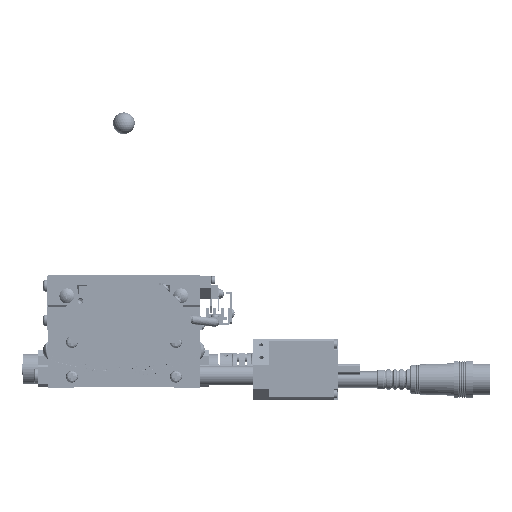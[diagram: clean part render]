
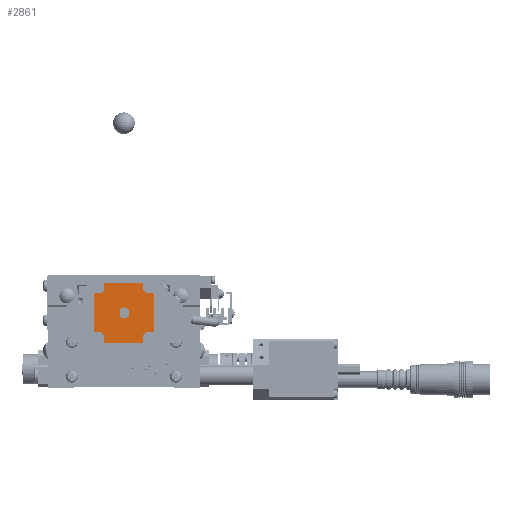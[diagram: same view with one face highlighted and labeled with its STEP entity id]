
A CAD part, front view. The second image highlights one B-rep face of the part: STEP entity #2861.
In plain terms, the highlighted planar face has unit normal (0, -1, 0).
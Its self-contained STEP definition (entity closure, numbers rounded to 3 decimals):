
#2861=ADVANCED_FACE('',(#31239,#31240),#31238,.F.);
#31238=PLANE('',#81348);
#31239=FACE_OUTER_BOUND('',#81349,.T.);
#31240=FACE_BOUND('',#81350,.T.);
#81345=CARTESIAN_POINT('',(16.8,-99.,51.3));
#81346=DIRECTION('',(0.,1.,0.));
#81347=DIRECTION('',(0.,0.,-1.));
#81348=AXIS2_PLACEMENT_3D('',#81345,#81346,#81347);
#81349=EDGE_LOOP('',(#115965,#115966,#115967,#115968,#115969,#115970,#115971,#115972,#115973,#115974,#115975,#115976,#115977,#115978,#115979,#115980));
#81350=EDGE_LOOP('',(#115981,#115982));
#115965=ORIENTED_EDGE('',*,*,#140571,.T.);
#115966=ORIENTED_EDGE('',*,*,#140578,.T.);
#115967=ORIENTED_EDGE('',*,*,#140575,.T.);
#115968=ORIENTED_EDGE('',*,*,#140584,.F.);
#115969=ORIENTED_EDGE('',*,*,#140585,.T.);
#115970=ORIENTED_EDGE('',*,*,#140586,.T.);
#115971=ORIENTED_EDGE('',*,*,#140587,.T.);
#115972=ORIENTED_EDGE('',*,*,#140588,.F.);
#115973=ORIENTED_EDGE('',*,*,#140589,.T.);
#115974=ORIENTED_EDGE('',*,*,#140590,.T.);
#115975=ORIENTED_EDGE('',*,*,#140591,.T.);
#115976=ORIENTED_EDGE('',*,*,#140592,.F.);
#115977=ORIENTED_EDGE('',*,*,#140593,.T.);
#115978=ORIENTED_EDGE('',*,*,#140594,.T.);
#115979=ORIENTED_EDGE('',*,*,#140595,.T.);
#115980=ORIENTED_EDGE('',*,*,#140596,.F.);
#115981=ORIENTED_EDGE('',*,*,#140597,.F.);
#115982=ORIENTED_EDGE('',*,*,#140485,.T.);
#140485=EDGE_CURVE('',#193451,#193452,#193453,.T.);
#140571=EDGE_CURVE('',#194030,#194023,#194031,.T.);
#140575=EDGE_CURVE('',#194058,#194051,#194059,.T.);
#140578=EDGE_CURVE('',#194023,#194058,#194077,.T.);
#140584=EDGE_CURVE('',#194117,#194051,#194118,.T.);
#140585=EDGE_CURVE('',#194117,#194124,#194125,.T.);
#140586=EDGE_CURVE('',#194124,#194131,#194132,.T.);
#140587=EDGE_CURVE('',#194131,#194138,#194139,.T.);
#140588=EDGE_CURVE('',#194145,#194138,#194146,.T.);
#140589=EDGE_CURVE('',#194145,#194152,#194153,.T.);
#140590=EDGE_CURVE('',#194152,#194159,#194160,.T.);
#140591=EDGE_CURVE('',#194159,#194166,#194167,.T.);
#140592=EDGE_CURVE('',#194173,#194166,#194174,.T.);
#140593=EDGE_CURVE('',#194173,#194180,#194181,.T.);
#140594=EDGE_CURVE('',#194180,#194187,#194188,.T.);
#140595=EDGE_CURVE('',#194187,#194194,#194195,.T.);
#140596=EDGE_CURVE('',#194030,#194194,#194201,.T.);
#140597=EDGE_CURVE('',#193451,#193452,#194207,.T.);
#193451=VERTEX_POINT('',#276558);
#193452=VERTEX_POINT('',#276559);
#193453=CIRCLE('',#276563,2.5);
#194023=VERTEX_POINT('',#276885);
#194030=VERTEX_POINT('',#276889);
#194031=LINE('',#276890,#276891);
#194051=VERTEX_POINT('',#276901);
#194058=VERTEX_POINT('',#276905);
#194059=LINE('',#276906,#276907);
#194077=CIRCLE('',#276919,19.);
#194117=VERTEX_POINT('',#276942);
#194118=LINE('',#276943,#276944);
#194124=VERTEX_POINT('',#276946);
#194125=LINE('',#276947,#276948);
#194131=VERTEX_POINT('',#276950);
#194132=CIRCLE('',#276954,19.);
#194138=VERTEX_POINT('',#276955);
#194139=LINE('',#276956,#276957);
#194145=VERTEX_POINT('',#276959);
#194146=LINE('',#276960,#276961);
#194152=VERTEX_POINT('',#276963);
#194153=LINE('',#276964,#276965);
#194159=VERTEX_POINT('',#276967);
#194160=CIRCLE('',#276971,19.);
#194166=VERTEX_POINT('',#276972);
#194167=LINE('',#276973,#276974);
#194173=VERTEX_POINT('',#276976);
#194174=LINE('',#276977,#276978);
#194180=VERTEX_POINT('',#276980);
#194181=LINE('',#276981,#276982);
#194187=VERTEX_POINT('',#276984);
#194188=CIRCLE('',#276988,19.);
#194194=VERTEX_POINT('',#276989);
#194195=LINE('',#276990,#276991);
#194201=LINE('',#276993,#276994);
#194207=LINE('',#276996,#276997);
#276558=CARTESIAN_POINT('',(-2.,-99.,36.));
#276559=CARTESIAN_POINT('',(-2.,-99.,33.));
#276560=CARTESIAN_POINT('',(0.,-99.,34.5));
#276561=DIRECTION('',(0.,1.,0.));
#276562=DIRECTION('',(-1.,0.,0.));
#276563=AXIS2_PLACEMENT_3D('',#276560,#276561,#276562);
#276885=CARTESIAN_POINT('',(-10.5,-99.,25.5));
#276889=CARTESIAN_POINT('',(-14.,-99.,25.5));
#276890=CARTESIAN_POINT('',(-14.,-99.,25.5));
#276891=VECTOR('',#276892,3.5);
#276892=DIRECTION('',(1.,0.,0.));
#276901=CARTESIAN_POINT('',(-9.,-99.,20.5));
#276905=CARTESIAN_POINT('',(-9.,-99.,24.));
#276906=CARTESIAN_POINT('',(-9.,-99.,24.));
#276907=VECTOR('',#276908,3.5);
#276908=DIRECTION('',(0.,0.,-1.));
#276916=CARTESIAN_POINT('',(-23.164,-99.,11.336));
#276917=DIRECTION('',(0.,1.,0.));
#276918=DIRECTION('',(-0.667,0.,-0.745));
#276919=AXIS2_PLACEMENT_3D('',#276916,#276917,#276918);
#276942=CARTESIAN_POINT('',(9.,-99.,20.5));
#276943=CARTESIAN_POINT('',(9.,-99.,20.5));
#276944=VECTOR('',#276945,18.);
#276945=DIRECTION('',(-1.,0.,0.));
#276946=CARTESIAN_POINT('',(9.,-99.,24.));
#276947=CARTESIAN_POINT('',(9.,-99.,20.5));
#276948=VECTOR('',#276949,3.5);
#276949=DIRECTION('',(0.,0.,1.));
#276950=CARTESIAN_POINT('',(10.5,-99.,25.5));
#276951=CARTESIAN_POINT('',(23.164,-99.,11.336));
#276952=DIRECTION('',(0.,1.,0.));
#276953=DIRECTION('',(0.745,0.,-0.667));
#276954=AXIS2_PLACEMENT_3D('',#276951,#276952,#276953);
#276955=CARTESIAN_POINT('',(14.,-99.,25.5));
#276956=CARTESIAN_POINT('',(10.5,-99.,25.5));
#276957=VECTOR('',#276958,3.5);
#276958=DIRECTION('',(1.,0.,0.));
#276959=CARTESIAN_POINT('',(14.,-99.,43.5));
#276960=CARTESIAN_POINT('',(14.,-99.,43.5));
#276961=VECTOR('',#276962,18.);
#276962=DIRECTION('',(0.,0.,-1.));
#276963=CARTESIAN_POINT('',(10.5,-99.,43.5));
#276964=CARTESIAN_POINT('',(14.,-99.,43.5));
#276965=VECTOR('',#276966,3.5);
#276966=DIRECTION('',(-1.,0.,0.));
#276967=CARTESIAN_POINT('',(9.,-99.,45.));
#276968=CARTESIAN_POINT('',(23.164,-99.,57.664));
#276969=DIRECTION('',(0.,1.,0.));
#276970=DIRECTION('',(0.667,0.,0.745));
#276971=AXIS2_PLACEMENT_3D('',#276968,#276969,#276970);
#276972=CARTESIAN_POINT('',(9.,-99.,48.5));
#276973=CARTESIAN_POINT('',(9.,-99.,45.));
#276974=VECTOR('',#276975,3.5);
#276975=DIRECTION('',(0.,0.,1.));
#276976=CARTESIAN_POINT('',(-9.,-99.,48.5));
#276977=CARTESIAN_POINT('',(-9.,-99.,48.5));
#276978=VECTOR('',#276979,18.);
#276979=DIRECTION('',(1.,0.,0.));
#276980=CARTESIAN_POINT('',(-9.,-99.,45.));
#276981=CARTESIAN_POINT('',(-9.,-99.,48.5));
#276982=VECTOR('',#276983,3.5);
#276983=DIRECTION('',(0.,0.,-1.));
#276984=CARTESIAN_POINT('',(-10.5,-99.,43.5));
#276985=CARTESIAN_POINT('',(-23.164,-99.,57.664));
#276986=DIRECTION('',(0.,1.,0.));
#276987=DIRECTION('',(-0.745,0.,0.667));
#276988=AXIS2_PLACEMENT_3D('',#276985,#276986,#276987);
#276989=CARTESIAN_POINT('',(-14.,-99.,43.5));
#276990=CARTESIAN_POINT('',(-10.5,-99.,43.5));
#276991=VECTOR('',#276992,3.5);
#276992=DIRECTION('',(-1.,0.,0.));
#276993=CARTESIAN_POINT('',(-14.,-99.,25.5));
#276994=VECTOR('',#276995,18.);
#276995=DIRECTION('',(0.,0.,1.));
#276996=CARTESIAN_POINT('',(-2.,-99.,36.));
#276997=VECTOR('',#276998,3.);
#276998=DIRECTION('',(0.,0.,-1.));
